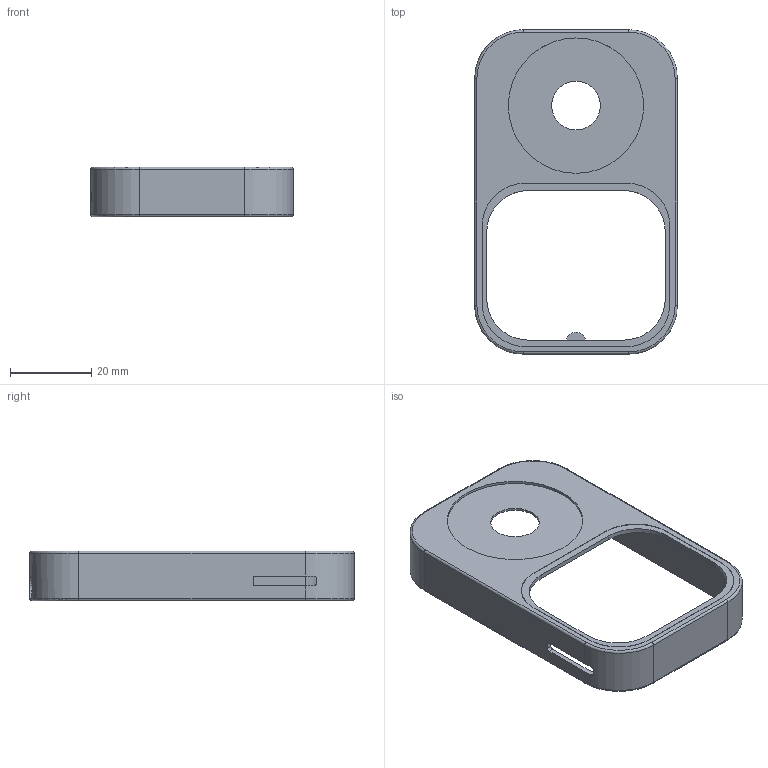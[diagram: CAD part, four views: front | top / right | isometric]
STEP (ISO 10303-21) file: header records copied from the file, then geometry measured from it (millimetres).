
FILE_DESCRIPTION(('FreeCAD Model'),'2;1');
FILE_NAME('Open CASCADE Shape Model','2026-09-21T09:26:54',('FreeCAD'),( 'FreeCAD'),'Open CASCADE STEP processor 7.8','FreeCAD','Unknown');
FILE_SCHEMA(('AUTOMOTIVE_DESIGN { 1 0 10303 214 1 1 1 1 }'));
Length unit declared in the file: millimetre
Products named in the file (1): Open CASCADE STEP translator 7.8 1
Bounding box: 50 x 80 x 12.3 mm (x, y, z)
Volume: 5389 mm3; surface area: 10230.7 mm2
Topology: 1 solids, 1 shells, 80 faces, 225 edges, 147 vertices
Faces by surface type: cylinder 39, plane 33, torus 8
Full cylindrical faces by diameter (mm): 1.3 x2, 12 x1, 33.4 x1
Entity records: 2828 total; most frequent: CARTESIAN_POINT 671, DIRECTION 466, ORIENTED_EDGE 450, EDGE_CURVE 225, AXIS2_PLACEMENT_3D 172, VERTEX_POINT 147, LINE 122, VECTOR 122
